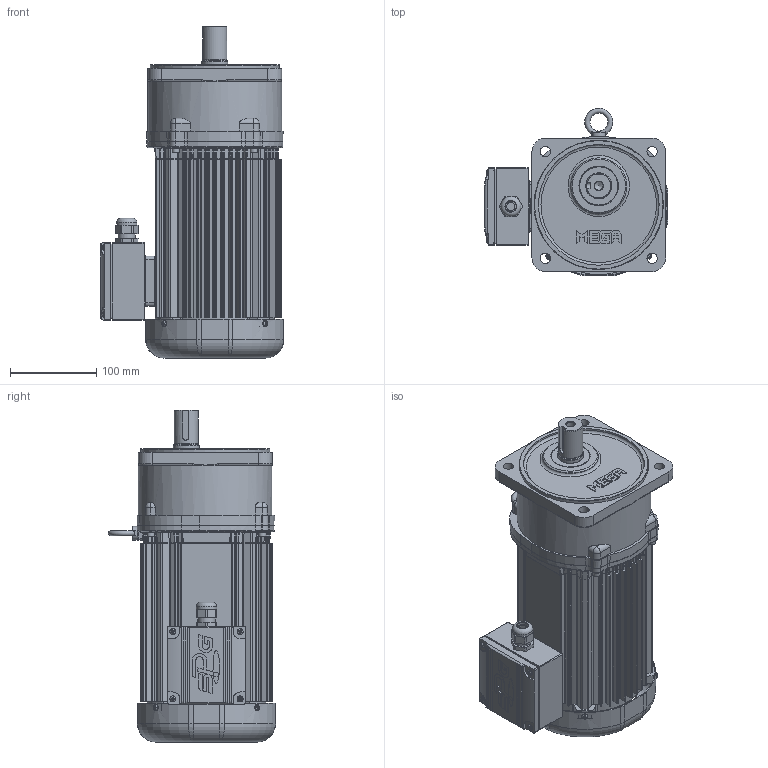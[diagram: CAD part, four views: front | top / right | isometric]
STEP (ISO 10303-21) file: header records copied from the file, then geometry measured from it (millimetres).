
FILE_DESCRIPTION(/* description */ (''),/* implementation_level */ '2;1');
FILE_NAME(/* name */ 'Z:\동력 3D 파일\PMK105-(5~30)-PA(B)075[ ]L_(3D).stp',/* time_stamp */ '2021-10-19T11:55:51+09:00',/* author */ ('jaebok'),/* organization */ (''),/* preprocessor_version */ 'ST-DEVELOPER v18.1',/* originating_system */ 'Autodesk Inventor 2022',/* authorisation */ '');
FILE_SCHEMA (('AUTOMOTIVE_DESIGN { 1 0 10303 214 3 1 1 }'));
Products named in the file (1): 부품1
Bounding box: 213.2 x 194 x 385 mm (x, y, z)
Volume: 1848131.9 mm3; surface area: 681450.2 mm2
Topology: 2 solids, 33 shells, 3223 faces, 8235 edges, 4949 vertices
Faces by surface type: plane 1017, cylinder 889, bspline 758, torus 294, cone 163, sphere 102
Full cylindrical faces by diameter (mm): 2 x1, 3.25 x1, 3.5 x4, 3.6 x4, 4 x21, 4.134 x4, 4.2 x4, 5 x23, 5.5 x4, 6 x8, 7 x14, 8 x10, 8.5 x4, 10 x2, 12 x4, 12.5 x1, 15 x1, 18 x1, 19 x1, 20 x2, 20.6 x1, 21 x2, 23.6 x1, 25 x1, 27.6 x1, 27.96 x1, 28 x1, 30 x4, 32 x1, 34.2 x1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
Entity records: 127901 total; most frequent: CARTESIAN_POINT 51437, ORIENTED_EDGE 16012, DIRECTION 14270, EDGE_CURVE 8006, AXIS2_PLACEMENT_3D 5726, VERTEX_POINT 4949, EDGE_LOOP 3433, STYLED_ITEM 3225
